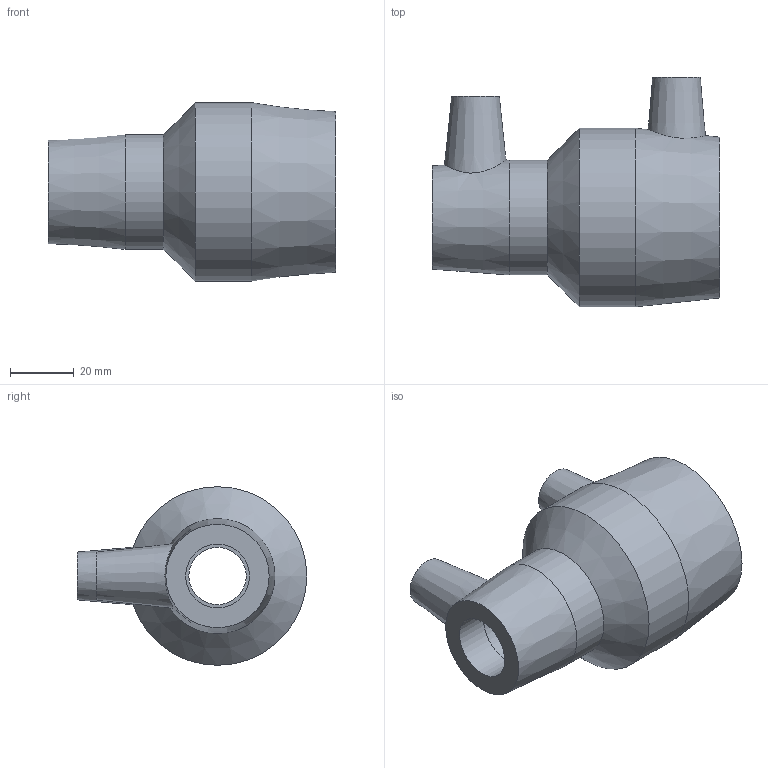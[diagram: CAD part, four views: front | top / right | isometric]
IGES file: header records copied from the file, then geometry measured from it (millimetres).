
Global section: file name: 491104040020.ipt; native system: Autodesk Inventor 2019; preprocessor: unknown; author: KIM; date: 20201207.222516; units: millimetre
Bounding box: 90 x 72 x 56 mm (x, y, z)
Volume: 88267.7 mm3; surface area: 27462 mm2
Topology: 1 solids, 1 shells, 31 faces, 72 edges, 51 vertices
Faces by surface type: plane 12, revolution 10, cone 5, cylinder 4
Full cylindrical faces by diameter (mm): 4 x2, 36 x1, 56 x1
